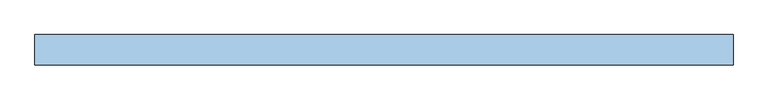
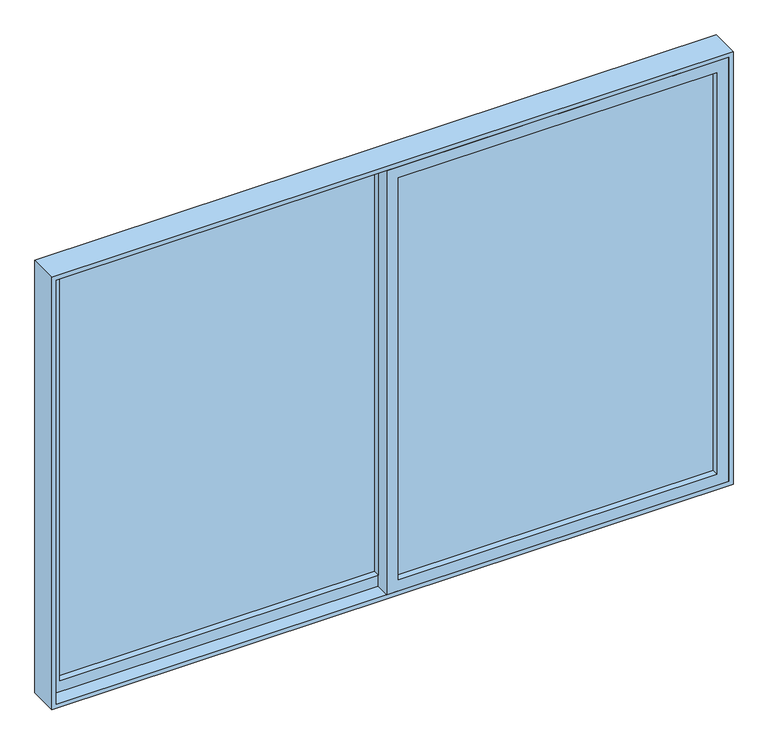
"""IFC4 building model written with IfcOpenShell, lengths in millimetres: window geometry, VENT_ALUM_CORR_2HOJAS_CORRE 1 : VD-20 / CORRE RECAM 1.55 X 2.31."""

from ifc_helpers import new_model, si_unit, frame, origin, place, context, project, spatial, polyline, outline, extrude, source, transform, mapped, element, save


def window_bad7215c(model_context):
    return source(origin(), model_context, "Body", "SweptSolid", [
        extrude(outline(polyline([(-20.0, 28.0), (-20.0, 22.0), (-1100.0, 22.0), (-1100.0, 28.0), (-20.0, 28.0)])), frame((0.0, 0.0, 855.0), z_axis=(0.0, 0.0, 1.0), x_axis=(1.0, 0.0, 0.0)), (0.0, 0.0, 1.0), 1440.0),
        extrude(outline(polyline([(2335.0, -1140.0), (815.0, -1140.0), (815.0, 20.0), (2335.0, 20.0), (2335.0, -1140.0)]), holes=[polyline([(855.0, -1100.0), (2295.0, -1100.0), (2295.0, -20.0), (855.0, -20.0), (855.0, -1100.0)])]), frame((0.0, 0.0, 0.0), z_axis=(0.0, 1.0, 0.0), x_axis=(0.0, 0.0, 1.0)), (0.0, 0.0, 1.0), 50.0),
        extrude(outline(polyline([(20.0, -28.0), (20.0, -22.0), (1100.0, -22.0), (1100.0, -28.0), (20.0, -28.0)])), frame((0.0, 0.0, 855.0), z_axis=(0.0, 0.0, 1.0), x_axis=(1.0, 0.0, 0.0)), (0.0, 0.0, 1.0), 1440.0),
        extrude(outline(polyline([(2335.0, -20.0), (815.0, -20.0), (815.0, 1140.0), (2335.0, 1140.0), (2335.0, -20.0)]), holes=[polyline([(855.0, 20.0), (2295.0, 20.0), (2295.0, 1100.0), (855.0, 1100.0), (855.0, 20.0)])]), frame((0.0, -50.0, 0.0), z_axis=(0.0, 1.0, 0.0), x_axis=(0.0, 0.0, 1.0)), (0.0, 0.0, 1.0), 50.0),
        extrude(outline(polyline([(2350.0, -1155.0), (800.0, -1155.0), (800.0, 1155.0), (2350.0, 1155.0), (2350.0, -1155.0)]), holes=[polyline([(815.0, -1140.0), (2335.0, -1140.0), (2335.0, 1140.0), (815.0, 1140.0), (815.0, -1140.0)])]), frame((0.0, -50.0, 0.0), z_axis=(0.0, 1.0, 0.0), x_axis=(0.0, 0.0, 1.0)), (0.0, 0.0, 1.0), 100.0),
    ])


if __name__ == "__main__":
    model = new_model("IFC4")
    model_context = context("Model", 3, world=origin())
    ifc_project = project(units=[si_unit("LENGTHUNIT", "METRE", prefix="MILLI")], contexts=[model_context])
    site = spatial("IfcSite", under=ifc_project)
    building = spatial("IfcBuilding", under=site)
    placement = place(None, origin())
    window_shape = window_bad7215c(model_context)
    element("IfcWindow", 1, ObjectType="VENT_ALUM_CORR_2HOJAS_CORRE 1 : VD-20 / CORRE RECAM 1.55 X 2.31", at=placement, inside=building, context=model_context, shape_type="MappedRepresentation", body=[
        mapped(window_shape, transform((0.0, 0.0, 0.0), x_axis=(1.0, 0.0, 0.0), y_axis=(0.0, 1.0, 0.0), z_axis=(0.0, 0.0, 1.0))),
    ])
    save(model, "model.ifc")
